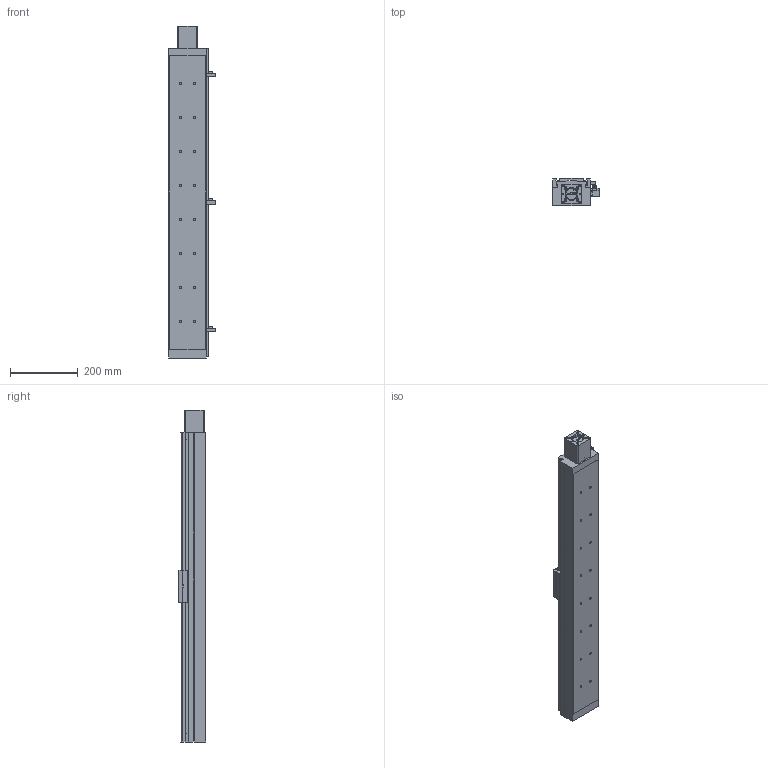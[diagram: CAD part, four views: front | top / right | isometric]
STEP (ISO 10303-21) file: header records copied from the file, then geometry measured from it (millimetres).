
FILE_DESCRIPTION((''),'2;1');
FILE_NAME('E:\libraries\UIA actuator library 2009\standard actuator\UIA110R12(15)DC\UIA110R12(15)DC-ball screw dia.20\UIA110R12(15)DC-_ _ _-R20_ _-M23 step file 20Apr16\UIA110R12(15)DC-750-R20_ _-M23-P13-C10-S.stp','2016-04-21T11:51:26',('h029'),(''),'Autodesk Inventor 11','Autodesk Inventor 11','');
FILE_SCHEMA(('AUTOMOTIVE_DESIGN { 1 0 10303 214 1 1 1 1 }'));
Length unit declared in the file: millimetre
Products named in the file (10): UIA110R12(15)DC-750, ball screw dia.20; body, UIA110R12(15)DC-750,ball screw dia.20; Carriage, UIA110R12(15)DC; Sen Switch, UIA110R12(15)DC; sensor rail, UIA110R12(15)DC; SOH-32C; SOH-32C-3; SOH-32C-1; SOH-32C-2; M23 motor mount
Assembly tree (9 placements, depth 3):
  UIA110R12(15)DC-750, ball screw dia.20
    body, UIA110R12(15)DC-750,ball screw dia.20
    Carriage, UIA110R12(15)DC
    Sen Switch, UIA110R12(15)DC
    sensor rail, UIA110R12(15)DC
    SOH-32C
      SOH-32C-3
      SOH-32C-1
      SOH-32C-2
    M23 motor mount
Bounding box: 136.5 x 81 x 977 mm (x, y, z)
Volume: 6949210.2 mm3; surface area: 553825.6 mm2
Topology: 8 solids, 8 shells, 645 faces, 1728 edges, 1133 vertices
Faces by surface type: plane 411, cylinder 132, bspline 83, cone 19
Full cylindrical faces by diameter (mm): 2.459 x4, 3.242 x4, 4 x6, 4.5 x4, 5.5 x3, 6.35 x1, 6.5 x16, 7.5 x4, 9.5 x6, 10 x2, 10.5 x16, 12 x1, 25 x1, 32 x3, 37 x1, 38.1 x1, 42 x1, 42.01 x1, 43.5 x1
Entity records: 20580 total; most frequent: CARTESIAN_POINT 5187, DIRECTION 3095, ORIENTED_EDGE 2970, EDGE_CURVE 1485, VERTEX_POINT 1056, AXIS2_PLACEMENT_3D 1046, VECTOR 1003, LINE 1003
